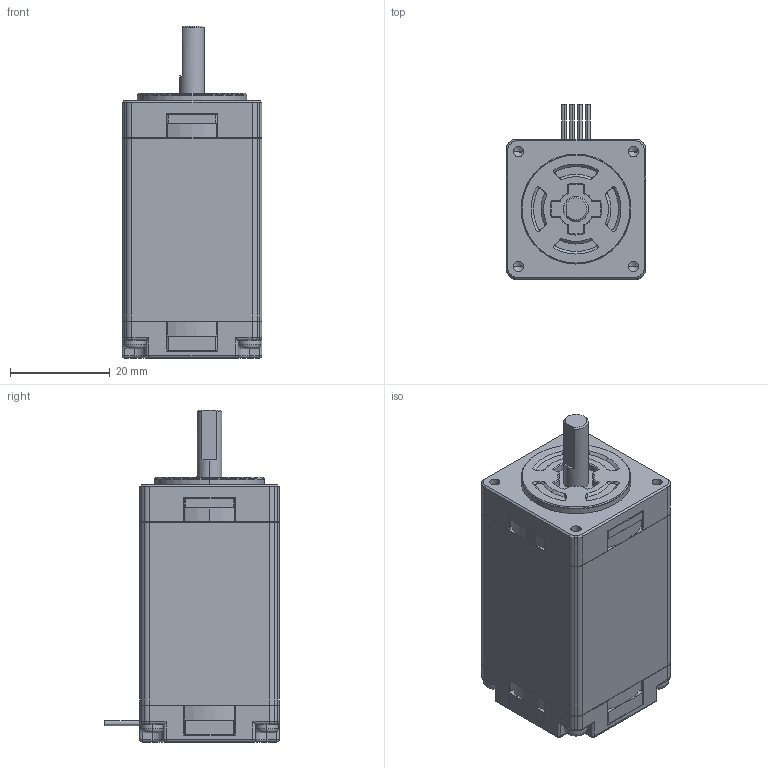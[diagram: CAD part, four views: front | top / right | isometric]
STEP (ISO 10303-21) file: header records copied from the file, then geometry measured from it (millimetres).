
FILE_DESCRIPTION (( 'STEP AP203' ), '1' );
FILE_NAME ('SH2285-5771.STEP', '2012-06-25T11:25:58', ( 'sanyodenki-admin' ), ( '' ), 'SwSTEP 2.0', 'SolidWorks 2011', '' );
FILE_SCHEMA (( 'CONFIG_CONTROL_DESIGN' ));
Length unit declared in the file: millimetre
Products named in the file (1): SH2285-5771
Bounding box: 28 x 35 x 66.45 mm (x, y, z)
Volume: 40226.1 mm3; surface area: 10238.7 mm2
Topology: 1 solids, 1 shells, 632 faces, 1688 edges, 1010 vertices
Faces by surface type: plane 244, cylinder 241, cone 77, torus 38, sphere 16, bspline 16
Entity records: 19924 total; most frequent: CARTESIAN_POINT 3993, DIRECTION 3461, ORIENTED_EDGE 3328, EDGE_CURVE 1664, AXIS2_PLACEMENT_3D 1286, VERTEX_POINT 1010, VECTOR 889, LINE 889
